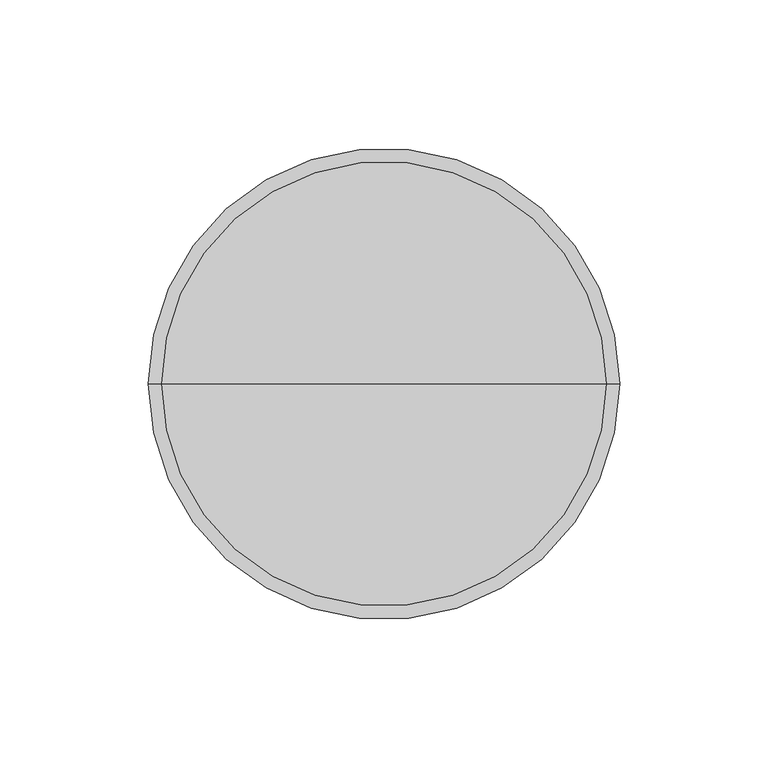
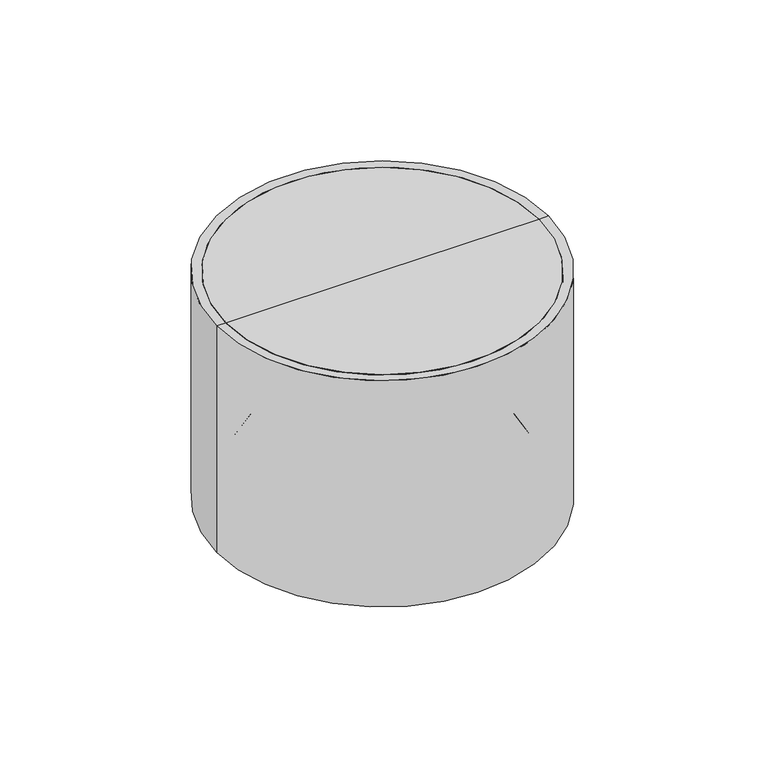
"""IFC4 building model written with IfcOpenShell, lengths in millimetres: light fixture geometry, LCMLD6_SURFACE MOUNT BASIC CYLINDER : LCMLD640W."""

from ifc_helpers import new_model, si_unit, point, frame, frame_2d, origin, place, context, project, spatial, polyline, circle_curve, ellipse_curve, trimmed, segment, composite_curve, outline, extrude, source, transform, mapped, element, save
from ifc_brep_helpers import plane_surface, cylinder_surface, revolved_surface, advanced_brep


def light_fixture_8562f4af(model_context):
    return source(origin(), model_context, "Body", "SolidModel", [
        advanced_brep(
        [(74.8683073, -33.7992882, 0.0), (-74.8683073, -33.7992882, 0.0), (0.0, -33.7992882, 0.0), (74.8683073, -33.7992882, -26.1716136), (-74.8683073, -33.7992882, -26.1716136), (0.0, -33.7992882, -26.1716136)],
        [
            (0, 1, circle_curve(frame((0.0, -33.7992882, 0.0), z_axis=(0.0, 0.0, 1.0), x_axis=(-1.0, 0.0, 0.0)), 74.8683073)),
            (1, 2),
            (2, 0),
            (1, 0, circle_curve(frame((0.0, -33.7992882, 0.0), z_axis=(0.0, 0.0, 1.0), x_axis=(-1.0, 0.0, 0.0)), 74.8683073)),
            (3, 4, circle_curve(frame((0.0, -33.7992882, -26.1716136), z_axis=(0.0, 0.0, 1.0), x_axis=(-1.0, 0.0, 0.0)), 74.8683073)),
            (4, 1),
            (0, 3),
            (4, 3, circle_curve(frame((0.0, -33.7992882, -26.1716136), z_axis=(0.0, 0.0, 1.0), x_axis=(-1.0, 0.0, 0.0)), 74.8683073)),
            (5, 4),
            (3, 5),
        ],
        [
            plane_surface(frame((0.0, -33.7992882, 0.0), z_axis=(0.0, 0.0, 1.0), x_axis=(-1.0, 0.0, 0.0))),
            cylinder_surface(frame((0.0, -33.7992882, 2350.6431236), z_axis=(0.0, 0.0, -1.0), x_axis=(-1.0, 0.0, 0.0)), 74.8683073),
            plane_surface(frame((0.0, -33.7992882, -26.1716136), z_axis=(0.0, 0.0, -1.0), x_axis=(-1.0, 0.0, 0.0))),
        ],
        [
            (0, [[1, 2, 3]]),
            (0, [[4, -3, -2]]),
            (1, [[5, 6, -1, 7]]),
            (1, [[8, -7, -4, -6]]),
            (2, [[9, -5, 10]]),
            (2, [[-10, -8, -9]]),
        ],
    ),
        advanced_brep(
        [(79.375, -33.7992882, -114.3), (-79.375, -33.7992882, -114.3), (-79.375, -33.7992882, 0.0), (79.375, -33.7992882, 0.0), (76.218677, -33.7992882, -114.3), (-76.218677, -33.7992882, -114.3), (73.7146298, -33.7992882, -112.4695561), (-73.7146298, -33.7992882, -112.4695561), (72.4208316, -33.7992882, -111.6827591), (-72.4208316, -33.7992882, -111.6827591), (67.9983817, -33.7992882, -97.4715725), (-67.9983817, -33.7992882, -97.4715725), (64.5876251, -33.7992882, -97.2220238), (-64.5876251, -33.7992882, -97.2220238), (62.8687802, -33.7992882, -94.2787464), (-62.8687802, -33.7992882, -94.2787464), (60.7788732, -33.7992882, -51.0840469), (-60.7788732, -33.7992882, -51.0840469), (12.0557957, -33.7992882, -51.0840469), (-12.0557957, -33.7992882, -51.0840469), (12.0557957, -33.7992882, -47.1409651), (-12.0557957, -33.7992882, -47.1409651), (74.8683073, -33.7992882, -47.1409651), (-74.8683073, -33.7992882, -47.1409651), (74.8683073, -33.7992882, 0.0), (-74.8683073, -33.7992882, 0.0)],
        [
            (0, 1, circle_curve(frame((0.0, -33.7992882, -114.3), z_axis=(0.0, 0.0, 1.0), x_axis=(-1.0, 0.0, 0.0)), 79.375)),
            (1, 2),
            (2, 3, circle_curve(frame((0.0, -33.7992882, 0.0), z_axis=(0.0, 0.0, -1.0), x_axis=(-1.0, 0.0, 0.0)), 79.375)),
            (3, 0),
            (1, 0, circle_curve(frame((0.0, -33.7992882, -114.3), z_axis=(0.0, 0.0, 1.0), x_axis=(-1.0, 0.0, 0.0)), 79.375)),
            (3, 2, circle_curve(frame((0.0, -33.7992882, 0.0), z_axis=(0.0, 0.0, -1.0), x_axis=(-1.0, 0.0, 0.0)), 79.375)),
            (4, 5, circle_curve(frame((0.0, -33.7992882, -114.3), z_axis=(0.0, 0.0, 1.0), x_axis=(-1.0, 0.0, 0.0)), 76.218677)),
            (5, 1),
            (0, 4),
            (5, 4, circle_curve(frame((0.0, -33.7992882, -114.3), z_axis=(0.0, 0.0, 1.0), x_axis=(-1.0, 0.0, 0.0)), 76.218677)),
            (6, 7, circle_curve(frame((0.0, -33.7992882, -112.4695561), z_axis=(0.0, 0.0, 1.0), x_axis=(-1.0, 0.0, 0.0)), 73.7146298)),
            (7, 5),
            (4, 6),
            (7, 6, circle_curve(frame((0.0, -33.7992882, -112.4695561), z_axis=(0.0, 0.0, 1.0), x_axis=(-1.0, 0.0, 0.0)), 73.7146298)),
            (8, 9, circle_curve(frame((0.0, -33.7992882, -111.6827591), z_axis=(0.0, 0.0, 1.0), x_axis=(-1.0, 0.0, 0.0)), 72.4208316)),
            (9, 7, circle_curve(frame((-73.4813574, -33.7992882, -111.3959956), z_axis=(0.0, 1.0, 0.0), x_axis=(1.0, 0.0, 0.0)), 1.0986119)),
            (6, 8, circle_curve(frame((73.4813574, -33.7992882, -111.3959956), z_axis=(0.0, 1.0, 0.0), x_axis=(-1.0, 0.0, 0.0)), 1.0986119)),
            (9, 8, circle_curve(frame((0.0, -33.7992882, -111.6827591), z_axis=(0.0, 0.0, 1.0), x_axis=(-1.0, 0.0, 0.0)), 72.4208316)),
            (10, 11, circle_curve(frame((0.0, -33.7992882, -97.4715725), z_axis=(0.0, 0.0, 1.0), x_axis=(-1.0, 0.0, 0.0)), 67.9983817)),
            (11, 9),
            (8, 10),
            (11, 10, circle_curve(frame((0.0, -33.7992882, -97.4715725), z_axis=(0.0, 0.0, 1.0), x_axis=(-1.0, 0.0, 0.0)), 67.9983817)),
            (12, 13, circle_curve(frame((0.0, -33.7992882, -97.2220238), z_axis=(0.0, 0.0, 1.0), x_axis=(-1.0, 0.0, 0.0)), 64.5876251)),
            (13, 11),
            (10, 12),
            (13, 12, circle_curve(frame((0.0, -33.7992882, -97.2220238), z_axis=(0.0, 0.0, 1.0), x_axis=(-1.0, 0.0, 0.0)), 64.5876251)),
            (14, 15, circle_curve(frame((0.0, -33.7992882, -94.2787464), z_axis=(0.0, 0.0, 1.0), x_axis=(-1.0, 0.0, 0.0)), 62.8687802)),
            (15, 13),
            (12, 14),
            (15, 14, circle_curve(frame((0.0, -33.7992882, -94.2787464), z_axis=(0.0, 0.0, 1.0), x_axis=(-1.0, 0.0, 0.0)), 62.8687802)),
            (16, 17, circle_curve(frame((0.0, -33.7992882, -51.0840469), z_axis=(0.0, 0.0, 1.0), x_axis=(-1.0, 0.0, 0.0)), 60.7788732)),
            (17, 15),
            (14, 16),
            (17, 16, circle_curve(frame((0.0, -33.7992882, -51.0840469), z_axis=(0.0, 0.0, 1.0), x_axis=(-1.0, 0.0, 0.0)), 60.7788732)),
            (18, 19, circle_curve(frame((0.0, -33.7992882, -51.0840469), z_axis=(0.0, 0.0, 1.0), x_axis=(-1.0, 0.0, 0.0)), 12.0557957)),
            (19, 17),
            (16, 18),
            (19, 18, circle_curve(frame((0.0, -33.7992882, -51.0840469), z_axis=(0.0, 0.0, 1.0), x_axis=(-1.0, 0.0, 0.0)), 12.0557957)),
            (20, 21, circle_curve(frame((0.0, -33.7992882, -47.1409651), z_axis=(0.0, 0.0, 1.0), x_axis=(-1.0, 0.0, 0.0)), 12.0557957)),
            (21, 19),
            (18, 20),
            (21, 20, circle_curve(frame((0.0, -33.7992882, -47.1409651), z_axis=(0.0, 0.0, 1.0), x_axis=(-1.0, 0.0, 0.0)), 12.0557957)),
            (22, 23, circle_curve(frame((0.0, -33.7992882, -47.1409651), z_axis=(0.0, 0.0, 1.0), x_axis=(-1.0, 0.0, 0.0)), 74.8683073)),
            (23, 21),
            (20, 22),
            (23, 22, circle_curve(frame((0.0, -33.7992882, -47.1409651), z_axis=(0.0, 0.0, 1.0), x_axis=(-1.0, 0.0, 0.0)), 74.8683073)),
            (24, 25, circle_curve(frame((0.0, -33.7992882, 0.0), z_axis=(0.0, 0.0, 1.0), x_axis=(-1.0, 0.0, 0.0)), 74.8683073)),
            (25, 23),
            (22, 24),
            (25, 24, circle_curve(frame((0.0, -33.7992882, 0.0), z_axis=(0.0, 0.0, 1.0), x_axis=(-1.0, 0.0, 0.0)), 74.8683073)),
            (2, 25),
            (24, 3),
        ],
        [
            cylinder_surface(frame((0.0, -33.7992882, -321.7372756), z_axis=(0.0, 0.0, -1.0), x_axis=(-1.0, 0.0, 0.0)), 79.375),
            plane_surface(frame((0.0, -33.7992882, -114.3), z_axis=(0.0, 0.0, -1.0), x_axis=(-1.0, 0.0, 0.0))),
            revolved_surface(polyline([(-76.218677, -33.7992882, -114.3), (-73.7146298, -33.7992882, -112.4695561)]), (0.0, -33.7992882, -321.7372756), (0.0, 0.0, -1.0)),
            revolved_surface(trimmed(ellipse_curve(frame((-73.4813574, -33.7992882, -111.3959956), z_axis=(0.0, -1.0, 0.0), x_axis=(1.0, 0.0, 0.0)), 1.0986119, 1.0986119), [point((-73.7146298, -33.7992882, -112.4695561))], [point((-72.4208316, -33.7992882, -111.6827591))], True, "CARTESIAN"), (0.0, -33.7992882, -321.7372756), (0.0, 0.0, -1.0)),
            revolved_surface(polyline([(-72.4208316, -33.7992882, -111.6827591), (-67.9983817, -33.7992882, -97.4715725)]), (0.0, -33.7992882, -321.7372756), (0.0, 0.0, -1.0)),
            revolved_surface(polyline([(-67.9983817, -33.7992882, -97.4715725), (-64.5876251, -33.7992882, -97.2220238)]), (0.0, -33.7992882, -321.7372756), (0.0, 0.0, -1.0)),
            revolved_surface(polyline([(-64.5876251, -33.7992882, -97.2220238), (-62.8687802, -33.7992882, -94.2787464)]), (0.0, -33.7992882, -321.7372756), (0.0, 0.0, -1.0)),
            revolved_surface(polyline([(-62.8687802, -33.7992882, -94.2787464), (-60.7788732, -33.7992882, -51.0840469)]), (0.0, -33.7992882, -321.7372756), (0.0, 0.0, -1.0)),
            plane_surface(frame((0.0, -33.7992882, -51.0840469), z_axis=(0.0, 0.0, -1.0), x_axis=(-1.0, 0.0, 0.0))),
            revolved_surface(polyline([(-12.0557957, -33.7992882, -51.084046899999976), (-12.0557957, -33.7992882, -47.14096510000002)]), (0.0, -33.7992882, -321.7372756), (0.0, 0.0, -1.0)),
            plane_surface(frame((0.0, -33.7992882, -47.1409651), z_axis=(0.0, 0.0, 1.0), x_axis=(-1.0, 0.0, 0.0))),
            revolved_surface(polyline([(-74.8683073, -33.7992882, -47.14096510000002), (-74.8683073, -33.7992882, 0.0)]), (0.0, -33.7992882, -321.7372756), (0.0, 0.0, -1.0)),
            plane_surface(frame((0.0, -33.7992882, 0.0), z_axis=(0.0, 0.0, 1.0), x_axis=(-1.0, 0.0, 0.0))),
        ],
        [
            (0, [[1, 2, 3, 4]]),
            (0, [[5, -4, 6, -2]]),
            (1, [[7, 8, -1, 9]]),
            (1, [[10, -9, -5, -8]]),
            (2, [[11, 12, -7, 13]]),
            (2, [[14, -13, -10, -12]]),
            (3, [[15, 16, -11, 17]]),
            (3, [[18, -17, -14, -16]]),
            (4, [[19, 20, -15, 21]]),
            (4, [[22, -21, -18, -20]]),
            (5, [[23, 24, -19, 25]]),
            (5, [[26, -25, -22, -24]]),
            (6, [[27, 28, -23, 29]]),
            (6, [[30, -29, -26, -28]]),
            (7, [[31, 32, -27, 33]]),
            (7, [[34, -33, -30, -32]]),
            (8, [[35, 36, -31, 37]]),
            (8, [[38, -37, -34, -36]]),
            (9, [[39, 40, -35, 41]]),
            (9, [[42, -41, -38, -40]]),
            (10, [[43, 44, -39, 45]]),
            (10, [[46, -45, -42, -44]]),
            (11, [[47, 48, -43, 49]]),
            (11, [[50, -49, -46, -48]]),
            (12, [[-3, 51, -47, 52]]),
            (12, [[-6, -52, -50, -51]]),
        ],
    ),
        extrude(outline(composite_curve([segment(trimmed(circle_curve(frame_2d((0.0, -33.7992882)), 62.8687802), [point((-62.8687802, -33.7992882))], [point((62.8687802, -33.7992882))], False, "CARTESIAN"), True, "CONTINUOUS"), segment(trimmed(circle_curve(frame_2d((0.0, -33.7992882)), 62.8687802), [point((62.8687802, -33.7992882))], [point((-62.8687802, -33.7992882))], False, "CARTESIAN"), True, "CONTINUOUS")], self_intersect=False)), frame((0.0, 0.0, -94.2787464), z_axis=(0.0, 0.0, 1.0), x_axis=(1.0, 0.0, 0.0)), (0.0, 0.0, 1.0), 3.0868485),
    ])


if __name__ == "__main__":
    model = new_model("IFC4")
    model_context = context("Model", 3, world=origin())
    ifc_project = project(units=[si_unit("LENGTHUNIT", "METRE", prefix="MILLI")], contexts=[model_context])
    site = spatial("IfcSite", under=ifc_project)
    building = spatial("IfcBuilding", under=site)
    placement = place(None, origin())
    light_fixture_shape = light_fixture_8562f4af(model_context)
    element("IfcLightFixture", 1, ObjectType="LCMLD6_SURFACE MOUNT BASIC CYLINDER : LCMLD640W", at=placement, inside=building, context=model_context, shape_type="MappedRepresentation", body=[
        mapped(light_fixture_shape, transform((0.0, 0.0, 0.0), x_axis=(1.0, 0.0, 0.0), y_axis=(0.0, 1.0, 0.0), z_axis=(0.0, 0.0, 1.0))),
    ])
    save(model, "model.ifc")
